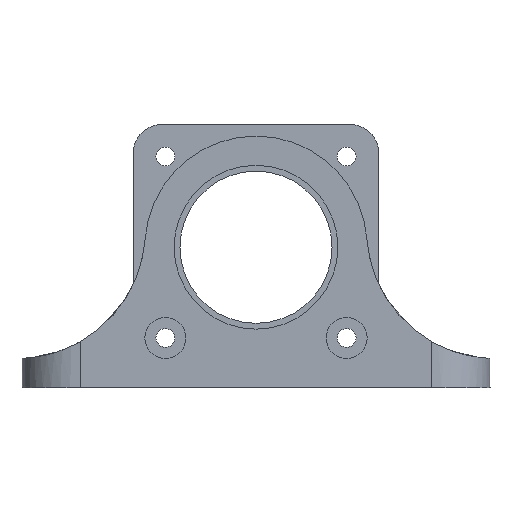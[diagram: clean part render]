
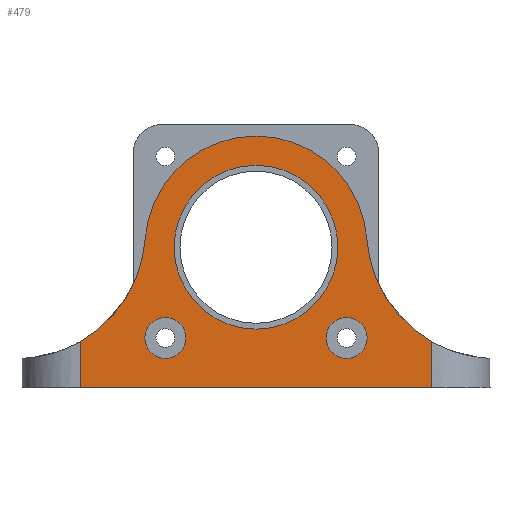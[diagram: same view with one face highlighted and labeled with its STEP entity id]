
A CAD part, front view. The second image highlights one B-rep face of the part: STEP entity #479.
In plain terms, the highlighted planar face has unit normal (0, -1, 0).
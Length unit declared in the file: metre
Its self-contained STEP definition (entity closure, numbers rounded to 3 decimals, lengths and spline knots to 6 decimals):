
#13=PLANE('',#537);
#25=CIRCLE('',#521,0.022);
#28=CIRCLE('',#525,0.019);
#38=CIRCLE('',#538,0.0035);
#39=CIRCLE('',#539,0.0035);
#40=CIRCLE('',#540,0.022);
#41=CIRCLE('',#541,0.014);
#69=LINE('',#824,#89);
#70=LINE('',#843,#90);
#71=LINE('',#845,#91);
#89=VECTOR('',#633,1.);
#90=VECTOR('',#640,1.);
#91=VECTOR('',#641,1.);
#130=ORIENTED_EDGE('',*,*,#247,.T.);
#131=ORIENTED_EDGE('',*,*,#248,.T.);
#132=ORIENTED_EDGE('',*,*,#249,.F.);
#133=ORIENTED_EDGE('',*,*,#250,.F.);
#134=ORIENTED_EDGE('',*,*,#224,.T.);
#135=ORIENTED_EDGE('',*,*,#229,.F.);
#136=ORIENTED_EDGE('',*,*,#251,.T.);
#137=ORIENTED_EDGE('',*,*,#245,.T.);
#138=ORIENTED_EDGE('',*,*,#252,.T.);
#224=EDGE_CURVE('',#285,#284,#25,.F.);
#229=EDGE_CURVE('',#288,#284,#28,.F.);
#245=EDGE_CURVE('',#303,#302,#69,.T.);
#247=EDGE_CURVE('',#304,#304,#38,.F.);
#248=EDGE_CURVE('',#305,#305,#39,.F.);
#249=EDGE_CURVE('',#306,#302,#70,.T.);
#250=EDGE_CURVE('',#285,#306,#71,.T.);
#251=EDGE_CURVE('',#288,#303,#40,.F.);
#252=EDGE_CURVE('',#307,#307,#41,.F.);
#284=VERTEX_POINT('',#770);
#285=VERTEX_POINT('',#772);
#288=VERTEX_POINT('',#791);
#302=VERTEX_POINT('',#823);
#303=VERTEX_POINT('',#825);
#304=VERTEX_POINT('',#840);
#305=VERTEX_POINT('',#842);
#306=VERTEX_POINT('',#844);
#307=VERTEX_POINT('',#848);
#342=EDGE_LOOP('',(#130));
#343=EDGE_LOOP('',(#131));
#344=EDGE_LOOP('',(#132,#133,#134,#135,#136,#137));
#345=EDGE_LOOP('',(#138));
#404=FACE_BOUND('',#342,.T.);
#405=FACE_BOUND('',#343,.T.);
#406=FACE_BOUND('',#344,.T.);
#407=FACE_BOUND('',#345,.T.);
#479=ADVANCED_FACE('',(#404,#405,#406,#407),#13,.T.);
#521=AXIS2_PLACEMENT_3D('',#771,#594,#595);
#525=AXIS2_PLACEMENT_3D('',#792,#603,#604);
#537=AXIS2_PLACEMENT_3D('',#838,#634,#635);
#538=AXIS2_PLACEMENT_3D('',#839,#636,#637);
#539=AXIS2_PLACEMENT_3D('',#841,#638,#639);
#540=AXIS2_PLACEMENT_3D('',#846,#642,#643);
#541=AXIS2_PLACEMENT_3D('',#847,#644,#645);
#594=DIRECTION('',(0.,-1.,0.));
#595=DIRECTION('',(0.,0.,-1.));
#603=DIRECTION('',(0.,-1.,0.));
#604=DIRECTION('',(0.,0.,-1.));
#633=DIRECTION('',(0.,0.,-1.));
#634=DIRECTION('',(0.,-1.,0.));
#635=DIRECTION('',(0.,0.,-1.));
#636=DIRECTION('',(0.,-1.,0.));
#637=DIRECTION('',(0.,0.,-1.));
#638=DIRECTION('',(0.,-1.,0.));
#639=DIRECTION('',(0.,0.,-1.));
#640=DIRECTION('',(-1.,0.,0.));
#641=DIRECTION('',(0.,0.,-1.));
#642=DIRECTION('',(0.,-1.,0.));
#643=DIRECTION('',(0.,0.,-1.));
#644=DIRECTION('',(0.,-1.,0.));
#645=DIRECTION('',(0.,0.,-1.));
#770=CARTESIAN_POINT('',(0.018949,-0.01,0.02539));
#771=CARTESIAN_POINT('',(0.04089,-0.01,0.027));
#772=CARTESIAN_POINT('',(0.03,-0.01,0.007884));
#791=CARTESIAN_POINT('',(-0.018949,-0.01,0.02539));
#792=CARTESIAN_POINT('',(0.,-0.01,0.024));
#823=CARTESIAN_POINT('',(-0.03,-0.01,0.));
#824=CARTESIAN_POINT('',(-0.03,-0.01,0.005));
#825=CARTESIAN_POINT('',(-0.03,-0.01,0.007884));
#838=CARTESIAN_POINT('',(0.,-0.01,0.005));
#839=CARTESIAN_POINT('',(0.0155,-0.01,0.0085));
#840=CARTESIAN_POINT('',(0.0155,-0.01,0.005));
#841=CARTESIAN_POINT('',(-0.0155,-0.01,0.0085));
#842=CARTESIAN_POINT('',(-0.0155,-0.01,0.005));
#843=CARTESIAN_POINT('',(0.,-0.01,0.));
#844=CARTESIAN_POINT('',(0.03,-0.01,0.));
#845=CARTESIAN_POINT('',(0.03,-0.01,0.005));
#846=CARTESIAN_POINT('',(-0.04089,-0.01,0.027));
#847=CARTESIAN_POINT('',(0.,-0.01,0.024));
#848=CARTESIAN_POINT('',(0.,-0.01,0.01));
